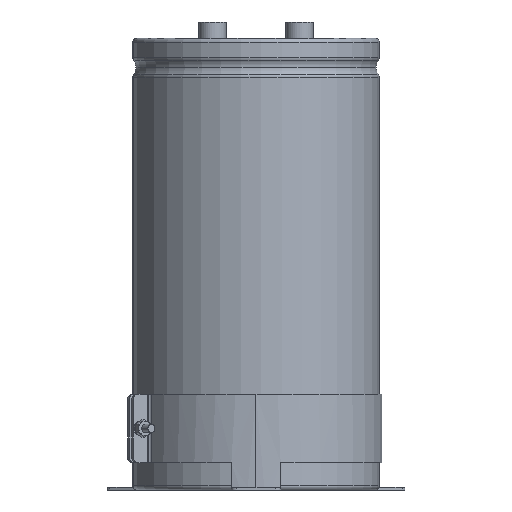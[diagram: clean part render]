
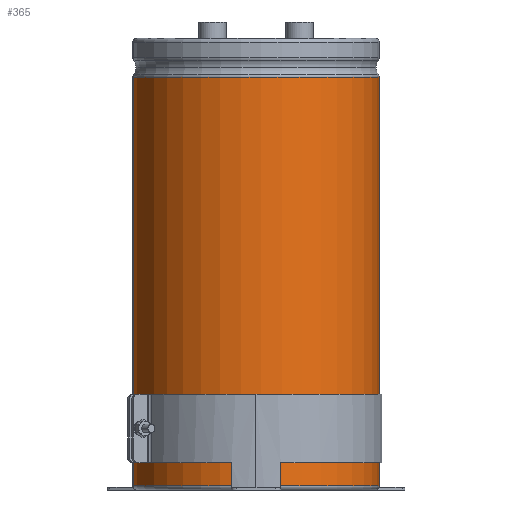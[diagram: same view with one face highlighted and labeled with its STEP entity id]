
A CAD part, left-side view. The second image highlights one B-rep face of the part: STEP entity #365.
In plain terms, the highlighted cylindrical face has radius 45 mm (diameter 90 mm), a partial arc.
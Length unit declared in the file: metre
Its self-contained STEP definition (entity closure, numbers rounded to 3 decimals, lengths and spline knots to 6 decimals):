
#365=ADVANCED_FACE('0:237',(#597),#598,.T.);
#597=FACE_OUTER_BOUND('',#1082,.T.);
#598=CYLINDRICAL_SURFACE('',#1083,0.045);
#1082=EDGE_LOOP('',(#2038,#2039,#2040,#2041));
#1083=AXIS2_PLACEMENT_3D('',#2042,#2043,#2044);
#2038=ORIENTED_EDGE('',*,*,#2995,.T.);
#2039=ORIENTED_EDGE('',*,*,#3004,.T.);
#2040=ORIENTED_EDGE('',*,*,#3006,.T.);
#2041=ORIENTED_EDGE('',*,*,#3007,.F.);
#2042=CARTESIAN_POINT('',(0.0,0.0,0.0));
#2043=DIRECTION('',(-0.0,0.0,1.0));
#2044=DIRECTION('',(0.0,1.0,0.0));
#2995=EDGE_CURVE('',#5626,#5634,#5635,.T.);
#3004=EDGE_CURVE('0:309',#5634,#5645,#5647,.T.);
#3006=EDGE_CURVE('0:312',#5645,#5649,#5650,.T.);
#3007=EDGE_CURVE('0:315',#5626,#5649,#5651,.T.);
#5626=VERTEX_POINT('',#6662);
#5634=VERTEX_POINT('',#6670);
#5635=LINE('',#6671,#6672);
#5645=VERTEX_POINT('',#6683);
#5647=CIRCLE('',#6685,0.045);
#5649=VERTEX_POINT('',#6687);
#5650=LINE('',#6688,#6689);
#5651=CIRCLE('',#6690,0.045);
#6662=CARTESIAN_POINT('',(0.,-0.045,0.0015));
#6670=CARTESIAN_POINT('',(0.,-0.045,0.1509));
#6671=CARTESIAN_POINT('',(0.,-0.045,0.0762));
#6672=VECTOR('',#8209,1.0);
#6683=CARTESIAN_POINT('',(-0.004,0.044822,0.1509));
#6685=AXIS2_PLACEMENT_3D('',#8226,#8227,#8228);
#6687=CARTESIAN_POINT('',(-0.004,0.044822,0.0015));
#6688=CARTESIAN_POINT('',(-0.004,0.044822,0.1509));
#6689=VECTOR('',#8229,0.001);
#6690=AXIS2_PLACEMENT_3D('',#8230,#8231,#8232);
#8209=DIRECTION('',(0.0,0.0,1.0));
#8226=CARTESIAN_POINT('',(0.0,0.0,0.1509));
#8227=DIRECTION('',(0.0,0.0,-1.0));
#8228=DIRECTION('',(0.0,1.0,0.0));
#8229=DIRECTION('',(0.0,0.0,-1.0));
#8230=CARTESIAN_POINT('',(0.0,0.0,0.0015));
#8231=DIRECTION('',(0.0,0.0,-1.0));
#8232=DIRECTION('',(0.0,1.0,0.0));
